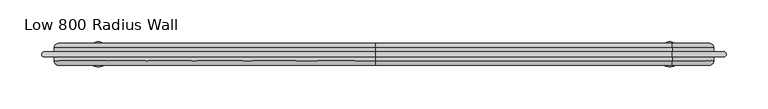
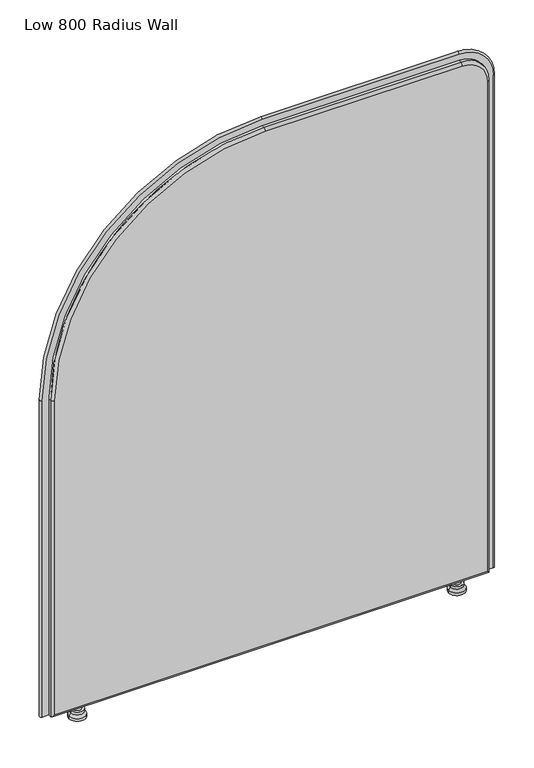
"""IFC4 building model written with IfcOpenShell, lengths in millimetres: furniture geometry, DBLTD_Sixteen3_PrivacyScreens_Artus_ArchRadius : Low 800 Radius Wall."""

from ifc_helpers import new_model, si_unit, point, frame, origin, place, context, project, spatial, polyline, circle_curve, ellipse_curve, trimmed, source, transform, mapped, element, save
from ifc_brep_helpers import plane_surface, cylinder_surface, revolved_surface, advanced_brep


def low_800_radius_wall_ecd84fb3(model_context):
    return source(origin(), model_context, "Body", "AdvancedBrep", [
        advanced_brep(
        [(342.2938623, 820.0, 22.0), (349.2938623, 820.0, 22.0), (335.2938623, 820.0, 22.0), (349.2938623, 820.0, 15.0), (335.2938623, 820.0, 15.0), (353.744562, 820.0, 15.0), (330.8431626, 820.0, 15.0), (353.744562, 820.0, 10.0), (330.8431626, 820.0, 10.0), (357.2938623, 820.0, 5.0), (327.2938623, 820.0, 5.0), (357.2938623, 820.0, 0.0), (327.2938623, 820.0, 0.0), (342.2938623, 820.0, 0.0)],
        [
            (0, 1),
            (1, 2, circle_curve(frame((342.2938623, 820.0, 22.0), z_axis=(0.0, 0.0, 1.0), x_axis=(1.0, 0.0, 0.0)), 7.0)),
            (2, 0),
            (2, 1, circle_curve(frame((342.2938623, 820.0, 22.0), z_axis=(0.0, 0.0, 1.0), x_axis=(1.0, 0.0, 0.0)), 7.0)),
            (1, 3),
            (3, 4, circle_curve(frame((342.2938623, 820.0, 15.0), z_axis=(0.0, 0.0, 1.0), x_axis=(1.0, 0.0, 0.0)), 7.0)),
            (4, 2),
            (4, 3, circle_curve(frame((342.2938623, 820.0, 15.0), z_axis=(0.0, 0.0, 1.0), x_axis=(1.0, 0.0, 0.0)), 7.0)),
            (3, 5),
            (5, 6, circle_curve(frame((342.2938623, 820.0, 15.0), z_axis=(0.0, 0.0, 1.0), x_axis=(1.0, 0.0, 0.0)), 11.4506997)),
            (6, 4),
            (6, 5, circle_curve(frame((342.2938623, 820.0, 15.0), z_axis=(0.0, 0.0, 1.0), x_axis=(1.0, 0.0, 0.0)), 11.4506997)),
            (5, 7),
            (7, 8, circle_curve(frame((342.2938623, 820.0, 10.0), z_axis=(0.0, 0.0, 1.0), x_axis=(1.0, 0.0, 0.0)), 11.4506997)),
            (8, 6),
            (8, 7, circle_curve(frame((342.2938623, 820.0, 10.0), z_axis=(0.0, 0.0, 1.0), x_axis=(1.0, 0.0, 0.0)), 11.4506997)),
            (7, 9),
            (9, 10, circle_curve(frame((342.2938623, 820.0, 5.0), z_axis=(0.0, 0.0, 1.0), x_axis=(1.0, 0.0, 0.0)), 15.0)),
            (10, 8),
            (10, 9, circle_curve(frame((342.2938623, 820.0, 5.0), z_axis=(0.0, 0.0, 1.0), x_axis=(1.0, 0.0, 0.0)), 15.0)),
            (9, 11),
            (11, 12, circle_curve(frame((342.2938623, 820.0, 0.0), z_axis=(0.0, 0.0, 1.0), x_axis=(1.0, 0.0, 0.0)), 15.0)),
            (12, 10),
            (12, 11, circle_curve(frame((342.2938623, 820.0, 0.0), z_axis=(0.0, 0.0, 1.0), x_axis=(1.0, 0.0, 0.0)), 15.0)),
            (11, 13),
            (13, 12),
        ],
        [
            plane_surface(frame((342.2938623, 820.0, 22.0), z_axis=(0.0, 0.0, 1.0), x_axis=(1.0, 0.0, 0.0))),
            cylinder_surface(frame((342.2938623, 820.0, 5.0), z_axis=(0.0, 0.0, 1.0), x_axis=(1.0, 0.0, 0.0)), 7.0),
            plane_surface(frame((342.2938623, 820.0, 15.0), z_axis=(0.0, 0.0, 1.0), x_axis=(1.0, 0.0, 0.0))),
            cylinder_surface(frame((342.2938623, 820.0, 5.0), z_axis=(0.0, 0.0, 1.0), x_axis=(1.0, 0.0, 0.0)), 11.4506997),
            revolved_surface(polyline([(357.2938623, 820.0, 5.0), (353.744562, 820.0, 10.0)]), (342.2938623, 820.0, 5.0), (0.0, 0.0, 1.0)),
            cylinder_surface(frame((342.2938623, 820.0, 5.0), z_axis=(0.0, 0.0, 1.0), x_axis=(1.0, 0.0, 0.0)), 15.0),
            plane_surface(frame((342.2938623, 820.0, 0.0), z_axis=(0.0, 0.0, -1.0), x_axis=(1.0, 0.0, 0.0))),
        ],
        [
            (0, [[1, 2, 3]]),
            (0, [[-3, 4, -1]]),
            (1, [[-2, 5, 6, 7]]),
            (1, [[-4, -7, 8, -5]]),
            (2, [[-6, 9, 10, 11]]),
            (2, [[-8, -11, 12, -9]]),
            (3, [[-10, 13, 14, 15]]),
            (3, [[-12, -15, 16, -13]]),
            (4, [[-14, 17, 18, 19]]),
            (4, [[-16, -19, 20, -17]]),
            (5, [[-18, 21, 22, 23]]),
            (5, [[-20, -23, 24, -21]]),
            (6, [[-22, 25, 26]]),
            (6, [[-24, -26, -25]]),
        ],
    ),
        advanced_brep(
        [(-335.2938623, 820.0, 22.0), (-349.2938623, 820.0, 22.0), (-342.2938623, 820.0, 22.0), (-335.2938623, 820.0, 15.0), (-349.2938623, 820.0, 15.0), (-330.8431626, 820.0, 15.0), (-353.744562, 820.0, 15.0), (-330.8431626, 820.0, 10.0), (-353.744562, 820.0, 10.0), (-327.2938623, 820.0, 5.0), (-357.2938623, 820.0, 5.0), (-327.2938623, 820.0, 0.0), (-357.2938623, 820.0, 0.0), (-342.2938623, 820.0, 0.0)],
        [
            (0, 1, circle_curve(frame((-342.2938623, 820.0, 22.0), z_axis=(0.0, 0.0, 1.0), x_axis=(-1.0, 0.0, 0.0)), 7.0)),
            (1, 2),
            (2, 0),
            (1, 0, circle_curve(frame((-342.2938623, 820.0, 22.0), z_axis=(0.0, 0.0, 1.0), x_axis=(-1.0, 0.0, 0.0)), 7.0)),
            (3, 4, circle_curve(frame((-342.2938623, 820.0, 15.0), z_axis=(0.0, 0.0, 1.0), x_axis=(-1.0, 0.0, 0.0)), 7.0)),
            (4, 1),
            (0, 3),
            (4, 3, circle_curve(frame((-342.2938623, 820.0, 15.0), z_axis=(0.0, 0.0, 1.0), x_axis=(-1.0, 0.0, 0.0)), 7.0)),
            (5, 6, circle_curve(frame((-342.2938623, 820.0, 15.0), z_axis=(0.0, 0.0, 1.0), x_axis=(-1.0, 0.0, 0.0)), 11.4506997)),
            (6, 4),
            (3, 5),
            (6, 5, circle_curve(frame((-342.2938623, 820.0, 15.0), z_axis=(0.0, 0.0, 1.0), x_axis=(-1.0, 0.0, 0.0)), 11.4506997)),
            (7, 8, circle_curve(frame((-342.2938623, 820.0, 10.0), z_axis=(0.0, 0.0, 1.0), x_axis=(-1.0, 0.0, 0.0)), 11.4506997)),
            (8, 6),
            (5, 7),
            (8, 7, circle_curve(frame((-342.2938623, 820.0, 10.0), z_axis=(0.0, 0.0, 1.0), x_axis=(-1.0, 0.0, 0.0)), 11.4506997)),
            (9, 10, circle_curve(frame((-342.2938623, 820.0, 5.0), z_axis=(0.0, 0.0, 1.0), x_axis=(-1.0, 0.0, 0.0)), 15.0)),
            (10, 8),
            (7, 9),
            (10, 9, circle_curve(frame((-342.2938623, 820.0, 5.0), z_axis=(0.0, 0.0, 1.0), x_axis=(-1.0, 0.0, 0.0)), 15.0)),
            (11, 12, circle_curve(frame((-342.2938623, 820.0, 0.0), z_axis=(0.0, 0.0, 1.0), x_axis=(-1.0, 0.0, 0.0)), 15.0)),
            (12, 10),
            (9, 11),
            (12, 11, circle_curve(frame((-342.2938623, 820.0, 0.0), z_axis=(0.0, 0.0, 1.0), x_axis=(-1.0, 0.0, 0.0)), 15.0)),
            (13, 12),
            (11, 13),
        ],
        [
            plane_surface(frame((-342.2938623, 820.0, 22.0), z_axis=(0.0, 0.0, 1.0), x_axis=(-1.0, 0.0, 0.0))),
            cylinder_surface(frame((-342.2938623, 820.0, 5.0), z_axis=(0.0, 0.0, -1.0), x_axis=(-1.0, 0.0, 0.0)), 7.0),
            plane_surface(frame((-342.2938623, 820.0, 15.0), z_axis=(0.0, 0.0, 1.0), x_axis=(-1.0, 0.0, 0.0))),
            cylinder_surface(frame((-342.2938623, 820.0, 5.0), z_axis=(0.0, 0.0, -1.0), x_axis=(-1.0, 0.0, 0.0)), 11.4506997),
            revolved_surface(polyline([(-353.744562, 820.0, 10.0), (-357.2938623, 820.0, 5.0)]), (-342.2938623, 820.0, 5.0), (0.0, 0.0, -1.0)),
            cylinder_surface(frame((-342.2938623, 820.0, 5.0), z_axis=(0.0, 0.0, -1.0), x_axis=(-1.0, 0.0, 0.0)), 15.0),
            plane_surface(frame((-342.2938623, 820.0, 0.0), z_axis=(0.0, 0.0, -1.0), x_axis=(-1.0, 0.0, 0.0))),
        ],
        [
            (0, [[1, 2, 3]]),
            (0, [[4, -3, -2]]),
            (1, [[5, 6, -1, 7]]),
            (1, [[8, -7, -4, -6]]),
            (2, [[9, 10, -5, 11]]),
            (2, [[12, -11, -8, -10]]),
            (3, [[13, 14, -9, 15]]),
            (3, [[16, -15, -12, -14]]),
            (4, [[17, 18, -13, 19]]),
            (4, [[20, -19, -16, -18]]),
            (5, [[21, 22, -17, 23]]),
            (5, [[24, -23, -20, -22]]),
            (6, [[25, -21, 26]]),
            (6, [[-26, -24, -25]]),
        ],
    ),
        advanced_brep(
        [(-390.0, 807.0, 27.0), (390.0, 807.0, 27.0), (390.0, 807.0, 960.0), (345.0, 807.0, 1005.0), (-10.0, 807.0, 1005.0), (-390.0, 807.0, 625.0), (390.0, 833.0, 27.0), (-390.0, 833.0, 27.0), (-390.0, 833.0, 625.0), (-10.0, 833.0, 1005.0), (345.0, 833.0, 1005.0), (390.0, 833.0, 960.0), (345.0, 811.9999959, 1010.0), (345.0, 828.0, 1010.0), (-10.0, 828.0, 1010.0), (-10.0, 812.0, 1010.0), (-395.0, 828.0, 625.0), (-395.0, 811.9999972, 625.0), (-395.0, 828.0, 22.0), (-395.0, 812.0, 22.0), (395.0, 828.0, 22.0), (395.0, 812.0, 22.0), (395.0, 828.0, 960.0), (395.0, 812.0, 960.0)],
        [
            (0, 1),
            (1, 2),
            (2, 3, circle_curve(frame((345.0, 807.0, 960.0), z_axis=(0.0, -1.0, 0.0), x_axis=(1.0, 0.0, 0.0)), 45.0)),
            (3, 4),
            (4, 5, circle_curve(frame((-10.0, 807.0, 625.0), z_axis=(0.0, -1.0, 0.0), x_axis=(0.0, 0.0, 1.0)), 380.0)),
            (5, 0),
            (6, 7),
            (7, 8),
            (8, 9, circle_curve(frame((-10.0, 833.0, 625.0), z_axis=(0.0, 1.0, 0.0), x_axis=(0.0, 0.0, 1.0)), 380.0)),
            (9, 10),
            (10, 11, circle_curve(frame((345.0, 833.0, 960.0), z_axis=(0.0, 1.0, 0.0), x_axis=(1.0, 0.0, 0.0)), 45.0)),
            (11, 6),
            (12, 13),
            (13, 14),
            (14, 15),
            (15, 12),
            (14, 16, circle_curve(frame((-10.0, 828.0, 625.0), z_axis=(0.0, -1.0, 0.0), x_axis=(1.0, 0.0, 0.0)), 385.0)),
            (16, 17),
            (17, 15, circle_curve(frame((-10.0, 812.0, 625.0), z_axis=(0.0, 1.0, 0.0), x_axis=(1.0, 0.0, 0.0)), 385.0)),
            (16, 18),
            (18, 19),
            (19, 17),
            (18, 20),
            (20, 21),
            (21, 19),
            (20, 22),
            (22, 23),
            (23, 21),
            (12, 23, circle_curve(frame((345.0, 812.0, 960.0), z_axis=(0.0, 1.0, 0.0), x_axis=(1.0, 0.0, 0.0)), 50.0)),
            (22, 13, circle_curve(frame((345.0, 828.0, 960.0), z_axis=(0.0, -1.0, 0.0), x_axis=(1.0, 0.0, 0.0)), 50.0)),
            (21, 1, ellipse_curve(frame((390.0, 812.0, 27.0), z_axis=(-0.7071067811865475, 0.0, -0.7071067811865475), x_axis=(0.7071067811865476, 0.0, -0.7071067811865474)), 7.0710678, 5.0)),
            (0, 19, ellipse_curve(frame((-390.0, 812.0, 27.0), z_axis=(0.7071067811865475, 0.0, -0.7071067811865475), x_axis=(0.7071067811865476, 0.0, 0.7071067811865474)), 7.0710678, 5.0)),
            (6, 20, ellipse_curve(frame((390.0, 828.0, 27.0), z_axis=(-0.7071067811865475, 0.0, -0.7071067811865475), x_axis=(0.7071067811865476, 0.0, -0.7071067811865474)), 7.0710678, 5.0)),
            (18, 7, ellipse_curve(frame((-390.0, 828.0, 27.0), z_axis=(0.7071067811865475, 0.0, -0.7071067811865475), x_axis=(0.7071067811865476, 0.0, 0.7071067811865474)), 7.0710678, 5.0)),
            (23, 2, circle_curve(frame((390.0, 812.0, 960.0), z_axis=(0.0, 0.0, -1.0), x_axis=(1.0, 0.0, 0.0)), 5.0)),
            (11, 22, circle_curve(frame((390.0, 828.0, 960.0), z_axis=(0.0, 0.0, -1.0), x_axis=(1.0, 0.0, 0.0)), 5.0)),
            (12, 3, circle_curve(frame((345.0, 812.0, 1005.0), z_axis=(1.0, 0.0, 0.0), x_axis=(0.0, 0.0, 1.0)), 5.0)),
            (10, 13, circle_curve(frame((345.0, 828.0, 1005.0), z_axis=(1.0, 0.0, 0.0), x_axis=(0.0, 0.0, 1.0)), 5.0)),
            (15, 4, circle_curve(frame((-10.0, 812.0, 1005.0), z_axis=(1.0, 0.0, 0.0), x_axis=(0.0, 0.0, 1.0)), 5.0)),
            (9, 14, circle_curve(frame((-10.0, 828.0, 1005.0), z_axis=(1.0, 0.0, 0.0), x_axis=(0.0, 0.0, 1.0)), 5.0)),
            (17, 5, circle_curve(frame((-390.0, 812.0, 625.0), z_axis=(0.0, 0.0, 1.0), x_axis=(-1.0, 0.0, 0.0)), 5.0)),
            (8, 16, circle_curve(frame((-390.0, 828.0, 625.0), z_axis=(0.0, 0.0, 1.0), x_axis=(-1.0, 0.0, 0.0)), 5.0)),
        ],
        [
            plane_surface(frame((-10.0, 807.0, 1010.0), z_axis=(0.0, -1.0, 0.0), x_axis=(-1.0, 0.0, 0.0))),
            plane_surface(frame((-10.0, 833.0, 1010.0), z_axis=(0.0, 1.0, 0.0), x_axis=(1.0, 0.0, 0.0))),
            plane_surface(frame((345.0, 807.0, 1010.0), z_axis=(0.0, 0.0, 1.0), x_axis=(0.0, 1.0, 0.0))),
            cylinder_surface(frame((-10.0, 833.0, 625.0), z_axis=(0.0, -1.0, 0.0), x_axis=(1.0, 0.0, 0.0)), 385.0),
            plane_surface(frame((-395.0, 807.0, 625.0), z_axis=(-1.0, 0.0, 0.0), x_axis=(0.0, 1.0, 0.0))),
            plane_surface(frame((-395.0, 807.0, 22.0), z_axis=(0.0, 0.0, -1.0), x_axis=(0.0, 1.0, 0.0))),
            plane_surface(frame((395.0, 807.0, 22.0), z_axis=(1.0, 0.0, 0.0), x_axis=(0.0, 1.0, 0.0))),
            cylinder_surface(frame((345.0, 833.0, 960.0), z_axis=(0.0, -1.0, 0.0), x_axis=(1.0, 0.0, 0.0)), 50.0),
            cylinder_surface(frame((-395.0, 812.0, 27.0), z_axis=(1.0, 0.0, 0.0), x_axis=(0.0, 0.0, -1.0)), 5.0),
            cylinder_surface(frame((-395.0, 828.0, 27.0), z_axis=(1.0, 0.0, 0.0), x_axis=(0.0, 0.0, -1.0)), 5.0),
            cylinder_surface(frame((390.0, 812.0, 22.0), z_axis=(0.0, 0.0, 1.0), x_axis=(1.0, 0.0, 0.0)), 5.0),
            cylinder_surface(frame((390.0, 828.0, 22.0), z_axis=(0.0, 0.0, 1.0), x_axis=(1.0, 0.0, 0.0)), 5.0),
            revolved_surface(trimmed(ellipse_curve(frame((390.0, 812.0, 960.0), z_axis=(0.0, 0.0, -1.0), x_axis=(1.0, 0.0, 0.0)), 5.0, 5.0), [point((395.0, 812.0, 960.0))], [point((390.0, 807.0, 960.0))], True, "CARTESIAN"), (345.0, 807.0, 960.0), (0.0, -1.0, 0.0)),
            revolved_surface(trimmed(ellipse_curve(frame((390.0, 828.0, 960.0), z_axis=(0.0, 0.0, -1.0), x_axis=(1.0, 0.0, 0.0)), 5.0, 5.0), [point((390.0, 833.0, 960.0))], [point((395.0, 828.0, 960.0))], True, "CARTESIAN"), (345.0, 807.0, 960.0), (0.0, -1.0, 0.0)),
            cylinder_surface(frame((345.0, 812.0, 1005.0), z_axis=(-1.0, 0.0, 0.0), x_axis=(0.0, 0.0, 1.0)), 5.0),
            cylinder_surface(frame((345.0, 828.0, 1005.0), z_axis=(-1.0, 0.0, 0.0), x_axis=(0.0, 0.0, 1.0)), 5.0),
            revolved_surface(trimmed(ellipse_curve(frame((-10.0, 812.0, 1005.0), z_axis=(1.0, 0.0, 0.0), x_axis=(0.0, 0.0, 1.0)), 5.0, 5.0), [point((-10.0, 812.0, 1010.0))], [point((-10.0, 807.0, 1005.0))], True, "CARTESIAN"), (-10.0, 807.0, 625.0), (0.0, -1.0, 0.0)),
            revolved_surface(trimmed(ellipse_curve(frame((-10.0, 828.0, 1005.0), z_axis=(1.0, 0.0, 0.0), x_axis=(0.0, 0.0, 1.0)), 5.0, 5.0), [point((-10.0, 833.0, 1005.0))], [point((-10.0, 828.0, 1010.0))], True, "CARTESIAN"), (-10.0, 807.0, 625.0), (0.0, -1.0, 0.0)),
            cylinder_surface(frame((-390.0, 812.0, 625.0), z_axis=(0.0, 0.0, -1.0), x_axis=(-1.0, 0.0, 0.0)), 5.0),
            cylinder_surface(frame((-390.0, 828.0, 625.0), z_axis=(0.0, 0.0, -1.0), x_axis=(-1.0, 0.0, 0.0)), 5.0),
        ],
        [
            (0, [[1, 2, 3, 4, 5, 6]]),
            (1, [[7, 8, 9, 10, 11, 12]]),
            (2, [[13, 14, 15, 16]]),
            (3, [[-15, 17, 18, 19]]),
            (4, [[-18, 20, 21, 22]]),
            (5, [[-21, 23, 24, 25]]),
            (6, [[-24, 26, 27, 28]]),
            (7, [[-13, 29, -27, 30]]),
            (8, [[31, -1, 32, -25]]),
            (9, [[33, -23, 34, -7]]),
            (10, [[-31, -28, 35, -2]]),
            (11, [[-33, -12, 36, -26]]),
            (12, [[-35, -29, 37, -3]]),
            (13, [[-36, -11, 38, -30]]),
            (14, [[-37, -16, 39, -4]]),
            (15, [[-38, -10, 40, -14]]),
            (16, [[-39, -19, 41, -5]]),
            (17, [[-40, -9, 42, -17]]),
            (18, [[-32, -6, -41, -22]]),
            (19, [[-34, -20, -42, -8]]),
        ],
    ),
        advanced_brep(
        [(406.9577057, 823.0, 22.0), (406.9577057, 817.0, 22.0), (395.0, 817.0, 22.0), (395.0, 823.0, 22.0), (406.9577057, 823.0, 960.0), (406.9577057, 817.0, 960.0), (345.0, 817.0, 1021.9577057), (-10.0, 817.0, 1021.9577057), (-406.9577057, 817.0, 625.0), (-406.9577057, 817.0, 22.0), (-395.0, 817.0, 22.0), (-395.0, 817.0, 625.0), (-10.0, 817.0, 1010.0), (345.0, 817.0, 1010.0), (395.0, 817.0, 960.0), (395.0, 823.0, 960.0), (345.0, 823.0, 1010.0), (-10.0, 823.0, 1010.0), (-395.0, 823.0, 625.0), (-395.0, 823.0, 22.0), (-406.9577057, 823.0, 22.0), (-406.9577057, 823.0, 625.0), (-10.0, 823.0, 1021.9577057), (345.0, 823.0, 1021.9577057)],
        [
            (0, 1, circle_curve(frame((406.9577057, 820.0, 22.0), z_axis=(0.0, 0.0, -1.0), x_axis=(1.0, 0.0, 0.0)), 3.0)),
            (1, 2),
            (2, 3),
            (3, 0),
            (0, 4),
            (4, 5, circle_curve(frame((406.9577057, 820.0, 960.0), z_axis=(0.0, 0.0, -1.0), x_axis=(1.0, 0.0, 0.0)), 3.0)),
            (5, 1),
            (5, 6, circle_curve(frame((345.0, 817.0, 960.0), z_axis=(0.0, -1.0, 0.0), x_axis=(1.0, 0.0, 0.0)), 61.9577057)),
            (6, 7),
            (7, 8, circle_curve(frame((-10.0, 817.0, 625.0), z_axis=(0.0, -1.0, 0.0), x_axis=(0.0, 0.0, 1.0)), 396.9577057)),
            (8, 9),
            (9, 10),
            (10, 11),
            (11, 12, circle_curve(frame((-10.0, 817.0, 625.0), z_axis=(0.0, 1.0, 0.0), x_axis=(0.0, 0.0, 1.0)), 385.0)),
            (12, 13),
            (13, 14, circle_curve(frame((345.0, 817.0, 960.0), z_axis=(0.0, 1.0, 0.0), x_axis=(1.0, 0.0, 0.0)), 50.0)),
            (14, 2),
            (14, 15),
            (15, 3),
            (15, 16, circle_curve(frame((345.0, 823.0, 960.0), z_axis=(0.0, -1.0, 0.0), x_axis=(1.0, 0.0, 0.0)), 50.0)),
            (16, 17),
            (17, 18, circle_curve(frame((-10.0, 823.0, 625.0), z_axis=(0.0, -1.0, 0.0), x_axis=(0.0, 0.0, 1.0)), 385.0)),
            (18, 19),
            (19, 20),
            (20, 21),
            (21, 22, circle_curve(frame((-10.0, 823.0, 625.0), z_axis=(0.0, 1.0, 0.0), x_axis=(0.0, 0.0, 1.0)), 396.9577057)),
            (22, 23),
            (23, 4, circle_curve(frame((345.0, 823.0, 960.0), z_axis=(0.0, 1.0, 0.0), x_axis=(1.0, 0.0, 0.0)), 61.9577057)),
            (23, 6, circle_curve(frame((345.0, 820.0, 1021.9577057), z_axis=(1.0, 0.0, 0.0), x_axis=(0.0, 0.0, 1.0)), 3.0)),
            (13, 16),
            (22, 7, circle_curve(frame((-10.0, 820.0, 1021.9577057), z_axis=(1.0, 0.0, 0.0), x_axis=(0.0, 0.0, 1.0)), 3.0)),
            (12, 17),
            (21, 8, circle_curve(frame((-406.9577057, 820.0, 625.0), z_axis=(0.0, 0.0, 1.0), x_axis=(-1.0, 0.0, 0.0)), 3.0)),
            (11, 18),
            (19, 10),
            (9, 20, circle_curve(frame((-406.9577057, 820.0, 22.0), z_axis=(0.0, 0.0, -1.0), x_axis=(-1.0, 0.0, 0.0)), 3.0)),
        ],
        [
            plane_surface(frame((395.0, 807.0, 22.0), z_axis=(0.0, 0.0, -1.0), x_axis=(1.0, 0.0, 0.0))),
            cylinder_surface(frame((406.9577057, 820.0, 22.0), z_axis=(0.0, 0.0, -1.0), x_axis=(1.0, 0.0, 0.0)), 3.0),
            plane_surface(frame((406.9577057, 817.0, 22.0), z_axis=(0.0, -1.0, 0.0), x_axis=(0.0, 0.0, 1.0))),
            plane_surface(frame((395.0, 817.0, 22.0), z_axis=(-1.0, 0.0, 0.0), x_axis=(0.0, 0.0, 1.0))),
            plane_surface(frame((395.0, 823.0, 22.0), z_axis=(0.0, 1.0, 0.0), x_axis=(0.0, 0.0, 1.0))),
            revolved_surface(trimmed(ellipse_curve(frame((406.9577057, 820.0, 960.0), z_axis=(0.0, 0.0, -1.0), x_axis=(1.0, 0.0, 0.0)), 3.0, 3.0), [point((406.9577057, 823.0, 960.0))], [point((406.9577057, 817.0, 960.0))], True, "CARTESIAN"), (345.0, 807.0, 960.0), (0.0, -1.0, 0.0)),
            revolved_surface(polyline([(395.0, 817.0, 960.0), (395.0, 823.0, 960.0)]), (345.0, 807.0, 960.0), (0.0, -1.0, 0.0)),
            cylinder_surface(frame((345.0, 820.0, 1021.9577057), z_axis=(1.0, 0.0, 0.0), x_axis=(0.0, 0.0, 1.0)), 3.0),
            plane_surface(frame((345.0, 817.0, 1010.0), z_axis=(0.0, 0.0, -1.0), x_axis=(-1.0, 0.0, 0.0))),
            revolved_surface(trimmed(ellipse_curve(frame((-10.0, 820.0, 1021.9577057), z_axis=(1.0, 0.0, 0.0), x_axis=(0.0, 0.0, 1.0)), 3.0, 3.0), [point((-10.0, 823.0, 1021.9577057))], [point((-10.0, 817.0, 1021.9577057))], True, "CARTESIAN"), (-10.0, 807.0, 625.0), (0.0, -1.0, 0.0)),
            revolved_surface(polyline([(-10.0, 817.0, 1010.0), (-10.0, 823.0, 1010.0)]), (-10.0, 807.0, 625.0), (0.0, -1.0, 0.0)),
            plane_surface(frame((-395.0, 807.0, 22.0), z_axis=(0.0, 0.0, -1.0), x_axis=(-1.0, 0.0, 0.0))),
            cylinder_surface(frame((-406.9577057, 820.0, 625.0), z_axis=(0.0, 0.0, 1.0), x_axis=(-1.0, 0.0, 0.0)), 3.0),
            plane_surface(frame((-395.0, 817.0, 625.0), z_axis=(1.0, 0.0, 0.0), x_axis=(0.0, 0.0, -1.0))),
        ],
        [
            (0, [[1, 2, 3, 4]]),
            (1, [[-1, 5, 6, 7]]),
            (2, [[-2, -7, 8, 9, 10, 11, 12, 13, 14, 15, 16, 17]]),
            (3, [[-3, -17, 18, 19]]),
            (4, [[-4, -19, 20, 21, 22, 23, 24, 25, 26, 27, 28, -5]]),
            (5, [[-8, -6, -28, 29]]),
            (6, [[-20, -18, -16, 30]]),
            (7, [[-29, -27, 31, -9]]),
            (8, [[-30, -15, 32, -21]]),
            (9, [[-10, -31, -26, 33]]),
            (10, [[-22, -32, -14, 34]]),
            (11, [[-24, 35, -12, 36]]),
            (12, [[-33, -25, -36, -11]]),
            (13, [[-34, -13, -35, -23]]),
        ],
    ),
    ])


if __name__ == "__main__":
    model = new_model("IFC4")
    model_context = context("Model", 3, world=origin())
    ifc_project = project(units=[si_unit("LENGTHUNIT", "METRE", prefix="MILLI")], contexts=[model_context])
    site = spatial("IfcSite", under=ifc_project)
    building = spatial("IfcBuilding", under=site)
    placement = place(None, origin())
    low_800_radius_wall_shape = low_800_radius_wall_ecd84fb3(model_context)
    element("IfcFurniture", 1, ObjectType="DBLTD_Sixteen3_PrivacyScreens_Artus_ArchRadius : Low 800 Radius Wall", at=placement, inside=building, context=model_context, shape_type="MappedRepresentation", body=[
        mapped(low_800_radius_wall_shape, transform((0.0, 0.0, 0.0), x_axis=(1.0, 0.0, 0.0), y_axis=(0.0, 1.0, 0.0), z_axis=(0.0, 0.0, 1.0))),
    ])
    save(model, "model.ifc")
